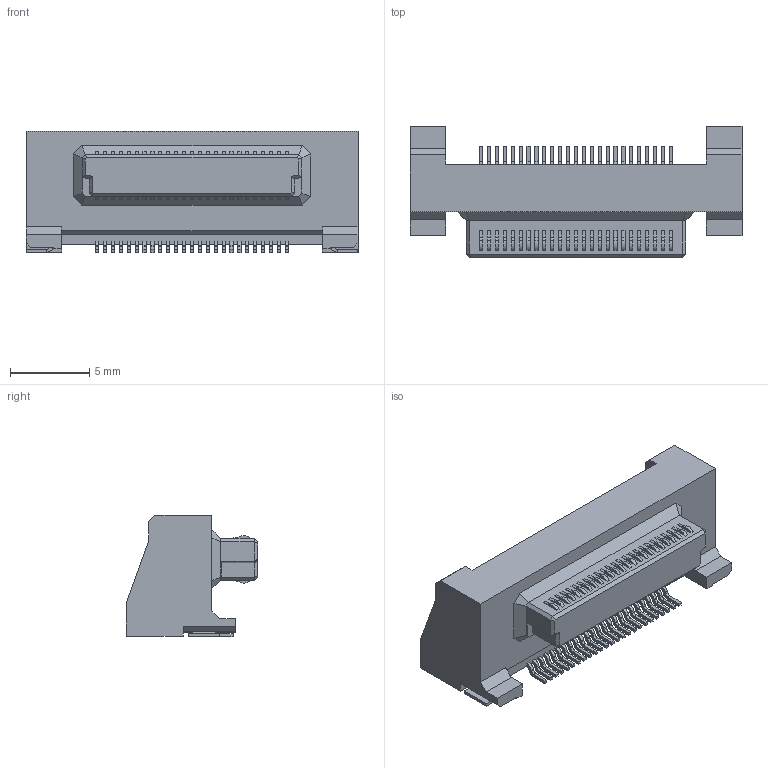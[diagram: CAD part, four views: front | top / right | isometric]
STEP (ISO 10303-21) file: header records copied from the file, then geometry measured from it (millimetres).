
FILE_DESCRIPTION(('Creo Elements/Direct Modeling STEP Export'),'2;1');
FILE_NAME('DY10-050L.stp','2017-11-30T16:10:49',(''),(''),'Creo Elements/Direct Modeling STEP processor for AP214 (Solid Model)','Creo Elements/Direct Modeling 19.0F 14-Feb-2017 (C) Parametric Technology GmbH','');
FILE_SCHEMA(('AUTOMOTIVE_DESIGN { 1 0 10303 214 1 1 1 1 }'));
Length unit declared in the file: millimetre
Products named in the file (2): DY10-050L
Assembly tree (1 placements, depth 2):
  DY10-050L
    DY10-050L
Bounding box: 21 x 8.3 x 7.7 mm (x, y, z)
Volume: 619.2 mm3; surface area: 757.7 mm2
Topology: 1 solids, 1 shells, 872 faces, 2373 edges, 1556 vertices
Faces by surface type: plane 618, cylinder 254
Entity records: 26908 total; most frequent: ORIENTED_EDGE 4746, CARTESIAN_POINT 4702, DIRECTION 4474, EDGE_CURVE 2373, VECTOR 1818, LINE 1818, VERTEX_POINT 1556, AXIS2_PLACEMENT_3D 1328
